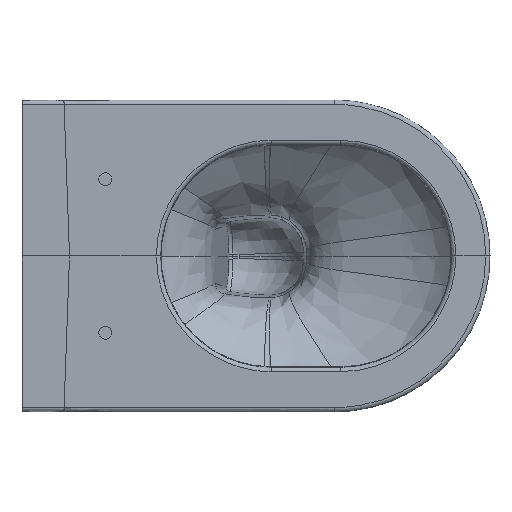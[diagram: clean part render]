
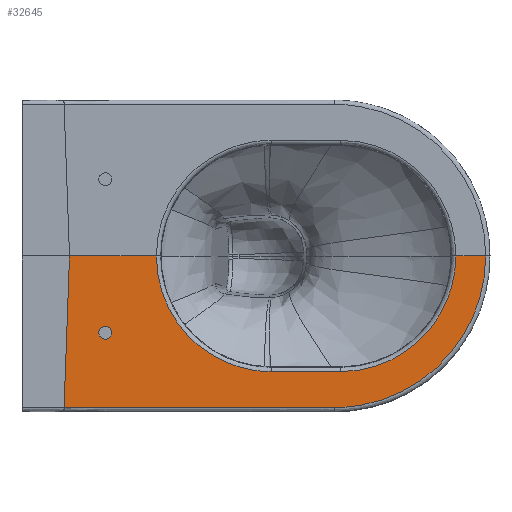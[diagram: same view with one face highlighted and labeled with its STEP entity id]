
A CAD part, top view. The second image highlights one B-rep face of the part: STEP entity #32645.
In plain terms, the highlighted planar face has unit normal (0, 0, 1).
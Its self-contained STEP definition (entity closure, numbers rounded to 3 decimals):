
#32554=AXIS2_PLACEMENT_3D('Plane Axis2P3D',#32551,#32552,#32553) ;
#32629=AXIS2_PLACEMENT_3D('Circle Axis2P3D',#32627,#32628,$) ;
#32638=AXIS2_PLACEMENT_3D('Circle Axis2P3D',#32636,#32637,$) ;
#31126=CARTESIAN_POINT('Vertex',(534.474,0.,0.)) ;
#32265=CARTESIAN_POINT('Line Origine',(517.243,0.,0.)) ;
#32269=CARTESIAN_POINT('Vertex',(500.012,0.,0.)) ;
#32276=CARTESIAN_POINT('Vertex',(54.732,0.,0.)) ;
#32279=CARTESIAN_POINT('Line Origine',(104.801,0.,0.)) ;
#32283=CARTESIAN_POINT('Vertex',(154.87,0.,0.)) ;
#32402=CARTESIAN_POINT('Control Point',(534.474,-0.002,0.)) ;
#32403=CARTESIAN_POINT('Control Point',(534.478,-10.644,0.)) ;
#32404=CARTESIAN_POINT('Control Point',(532.478,-32.569,0.)) ;
#32405=CARTESIAN_POINT('Control Point',(523.149,-65.096,0.)) ;
#32406=CARTESIAN_POINT('Control Point',(506.885,-96.555,0.)) ;
#32407=CARTESIAN_POINT('Control Point',(483.95,-124.751,0.)) ;
#32408=CARTESIAN_POINT('Control Point',(455.658,-147.56,0.)) ;
#32409=CARTESIAN_POINT('Control Point',(424.14,-163.684,0.)) ;
#32410=CARTESIAN_POINT('Control Point',(391.902,-172.786,0.)) ;
#32411=CARTESIAN_POINT('Control Point',(370.314,-174.73,0.)) ;
#32412=CARTESIAN_POINT('Control Point',(360.,-174.743,0.)) ;
#32413=CARTESIAN_POINT('Vertex',(360.,-174.743,0.)) ;
#32551=CARTESIAN_POINT('Axis2P3D Location',(-5.4,-183.6,0.)) ;
#32557=CARTESIAN_POINT('Control Point',(367.561,-133.261,0.)) ;
#32558=CARTESIAN_POINT('Control Point',(378.167,-133.261,0.)) ;
#32559=CARTESIAN_POINT('Control Point',(388.774,-132.193,0.)) ;
#32560=CARTESIAN_POINT('Control Point',(399.236,-130.057,0.)) ;
#32561=CARTESIAN_POINT('Control Point',(419.607,-123.703,0.)) ;
#32562=CARTESIAN_POINT('Control Point',(438.314,-113.417,0.)) ;
#32563=CARTESIAN_POINT('Control Point',(447.127,-107.341,0.)) ;
#32564=CARTESIAN_POINT('Control Point',(470.905,-87.144,0.)) ;
#32565=CARTESIAN_POINT('Control Point',(488.17,-60.636,0.)) ;
#32566=CARTESIAN_POINT('Control Point',(496.011,-41.218,0.)) ;
#32567=CARTESIAN_POINT('Control Point',(499.972,-20.718,0.)) ;
#32568=CARTESIAN_POINT('Control Point',(500.012,-0.208,0.)) ;
#32569=CARTESIAN_POINT('Control Point',(500.012,-0.139,0.)) ;
#32570=CARTESIAN_POINT('Control Point',(500.012,-0.069,0.)) ;
#32571=CARTESIAN_POINT('Control Point',(500.012,0.,0.)) ;
#32572=CARTESIAN_POINT('Vertex',(367.561,-133.261,0.)) ;
#32575=CARTESIAN_POINT('Line Origine',(327.441,-133.261,0.)) ;
#32579=CARTESIAN_POINT('Vertex',(287.321,-133.261,0.)) ;
#32583=CARTESIAN_POINT('Control Point',(154.87,0.,0.)) ;
#32584=CARTESIAN_POINT('Control Point',(154.87,-0.069,0.)) ;
#32585=CARTESIAN_POINT('Control Point',(154.871,-0.139,0.)) ;
#32586=CARTESIAN_POINT('Control Point',(154.871,-0.208,0.)) ;
#32587=CARTESIAN_POINT('Control Point',(154.894,-12.177,0.)) ;
#32588=CARTESIAN_POINT('Control Point',(156.253,-24.142,0.)) ;
#32589=CARTESIAN_POINT('Control Point',(158.923,-35.837,0.)) ;
#32590=CARTESIAN_POINT('Control Point',(166.408,-57.271,0.)) ;
#32591=CARTESIAN_POINT('Control Point',(178.183,-76.639,0.)) ;
#32592=CARTESIAN_POINT('Control Point',(184.649,-85.206,0.)) ;
#32593=CARTESIAN_POINT('Control Point',(204.813,-106.979,0.)) ;
#32594=CARTESIAN_POINT('Control Point',(230.392,-122.585,0.)) ;
#32595=CARTESIAN_POINT('Control Point',(248.355,-129.506,0.)) ;
#32596=CARTESIAN_POINT('Control Point',(267.422,-133.115,0.)) ;
#32597=CARTESIAN_POINT('Control Point',(286.524,-133.259,0.)) ;
#32598=CARTESIAN_POINT('Control Point',(286.794,-133.26,0.)) ;
#32599=CARTESIAN_POINT('Control Point',(287.058,-133.261,0.)) ;
#32600=CARTESIAN_POINT('Control Point',(287.321,-133.261,0.)) ;
#32602=CARTESIAN_POINT('Line Origine',(51.608,-87.239,0.)) ;
#32606=CARTESIAN_POINT('Vertex',(48.484,-174.477,0.)) ;
#32610=CARTESIAN_POINT('Control Point',(360.,-174.743,0.)) ;
#32611=CARTESIAN_POINT('Control Point',(297.697,-174.691,0.)) ;
#32612=CARTESIAN_POINT('Control Point',(235.393,-174.638,0.)) ;
#32613=CARTESIAN_POINT('Control Point',(173.09,-174.584,0.)) ;
#32614=CARTESIAN_POINT('Control Point',(110.787,-174.531,0.)) ;
#32615=CARTESIAN_POINT('Control Point',(48.484,-174.477,0.)) ;
#32627=CARTESIAN_POINT('Axis2P3D Location',(96.,-88.5,0.)) ;
#32631=CARTESIAN_POINT('Vertex',(103.5,-88.5,0.)) ;
#32633=CARTESIAN_POINT('Vertex',(88.5,-88.5,0.)) ;
#32636=CARTESIAN_POINT('Axis2P3D Location',(96.,-88.5,0.)) ;
#32266=DIRECTION('Vector Direction',(-1.,0.,0.)) ;
#32280=DIRECTION('Vector Direction',(1.,0.,0.)) ;
#32552=DIRECTION('Axis2P3D Direction',(0.,0.,-1.)) ;
#32553=DIRECTION('Axis2P3D XDirection',(0.,1.,0.)) ;
#32576=DIRECTION('Vector Direction',(1.,0.,0.)) ;
#32603=DIRECTION('Vector Direction',(0.036,0.999,0.)) ;
#32628=DIRECTION('Axis2P3D Direction',(0.,0.,-1.)) ;
#32637=DIRECTION('Axis2P3D Direction',(0.,0.,-1.)) ;
#32267=VECTOR('Line Direction',#32266,1.) ;
#32281=VECTOR('Line Direction',#32280,1.) ;
#32577=VECTOR('Line Direction',#32576,1.) ;
#32604=VECTOR('Line Direction',#32603,1.) ;
#32618=ORIENTED_EDGE('',*,*,#32574,.F.) ;
#32619=ORIENTED_EDGE('',*,*,#32581,.F.) ;
#32620=ORIENTED_EDGE('',*,*,#32601,.F.) ;
#32621=ORIENTED_EDGE('',*,*,#32285,.F.) ;
#32622=ORIENTED_EDGE('',*,*,#32608,.F.) ;
#32623=ORIENTED_EDGE('',*,*,#32616,.F.) ;
#32624=ORIENTED_EDGE('',*,*,#32415,.F.) ;
#32625=ORIENTED_EDGE('',*,*,#32271,.T.) ;
#32642=ORIENTED_EDGE('',*,*,#32635,.T.) ;
#32643=ORIENTED_EDGE('',*,*,#32640,.T.) ;
#32644=FACE_BOUND('',#32641,.T.) ;
#32645=ADVANCED_FACE('Spezza.14',(#32626,#32644),#32555,.F.) ;
#32556=B_SPLINE_CURVE_WITH_KNOTS('',5,(#32557,#32558,#32559,#32560,#32561,#32562,#32563,#32564,#32565,#32566,#32567,#32568,#32569,#32570,#32571),.UNSPECIFIED.,.F.,.U.,(6,3,3,3,6),(123.197,197.838,272.599,416.049,416.537),.UNSPECIFIED.) ;
#32582=B_SPLINE_CURVE_WITH_KNOTS('',5,(#32583,#32584,#32585,#32586,#32587,#32588,#32589,#32590,#32591,#32592,#32593,#32594,#32595,#32596,#32597,#32598,#32599,#32600),.UNSPECIFIED.,.F.,.U.,(6,3,3,3,3,6),(58.051,58.539,142.047,216.952,349.527,351.383),.UNSPECIFIED.) ;
#32609=B_SPLINE_CURVE_WITH_KNOTS('',5,(#32610,#32611,#32612,#32613,#32614,#32615),.UNSPECIFIED.,.F.,.U.,(6,6),(0.,440.551),.UNSPECIFIED.) ;
#32630=CIRCLE('generated circle',#32629,7.5) ;
#32639=CIRCLE('generated circle',#32638,7.5) ;
#32271=EDGE_CURVE('',#31127,#32270,#32268,.T.) ;
#32285=EDGE_CURVE('',#32277,#32284,#32282,.T.) ;
#32415=EDGE_CURVE('',#31127,#32414,#32401,.T.) ;
#32574=EDGE_CURVE('',#32573,#32270,#32556,.T.) ;
#32581=EDGE_CURVE('',#32580,#32573,#32578,.T.) ;
#32601=EDGE_CURVE('',#32284,#32580,#32582,.T.) ;
#32608=EDGE_CURVE('',#32607,#32277,#32605,.T.) ;
#32616=EDGE_CURVE('',#32414,#32607,#32609,.T.) ;
#32635=EDGE_CURVE('',#32632,#32634,#32630,.T.) ;
#32640=EDGE_CURVE('',#32634,#32632,#32639,.T.) ;
#32617=EDGE_LOOP('',(#32618,#32619,#32620,#32621,#32622,#32623,#32624,#32625)) ;
#32641=EDGE_LOOP('',(#32642,#32643)) ;
#32626=FACE_OUTER_BOUND('',#32617,.T.) ;
#32268=LINE('Line',#32265,#32267) ;
#32282=LINE('Line',#32279,#32281) ;
#32578=LINE('Line',#32575,#32577) ;
#32605=LINE('Line',#32602,#32604) ;
#32555=PLANE('Plane',#32554) ;
#31127=VERTEX_POINT('',#31126) ;
#32270=VERTEX_POINT('',#32269) ;
#32277=VERTEX_POINT('',#32276) ;
#32284=VERTEX_POINT('',#32283) ;
#32414=VERTEX_POINT('',#32413) ;
#32573=VERTEX_POINT('',#32572) ;
#32580=VERTEX_POINT('',#32579) ;
#32607=VERTEX_POINT('',#32606) ;
#32632=VERTEX_POINT('',#32631) ;
#32634=VERTEX_POINT('',#32633) ;
#32401=(BOUNDED_CURVE()B_SPLINE_CURVE(3,(#32402,#32403,#32404,#32405,#32406,#32407,#32408,#32409,#32410,#32411,#32412),.UNSPECIFIED.,.F.,.U.)B_SPLINE_CURVE_WITH_KNOTS((4,1,1,1,1,1,1,1,4),(0.525,33.133,67.706,103.726,141.097,178.464,214.472,249.026,280.629),.UNSPECIFIED.)CURVE()GEOMETRIC_REPRESENTATION_ITEM()RATIONAL_B_SPLINE_CURVE((1.,1.,1.,1.,1.,1.,1.,1.,1.,1.,1.))REPRESENTATION_ITEM('')) ;
